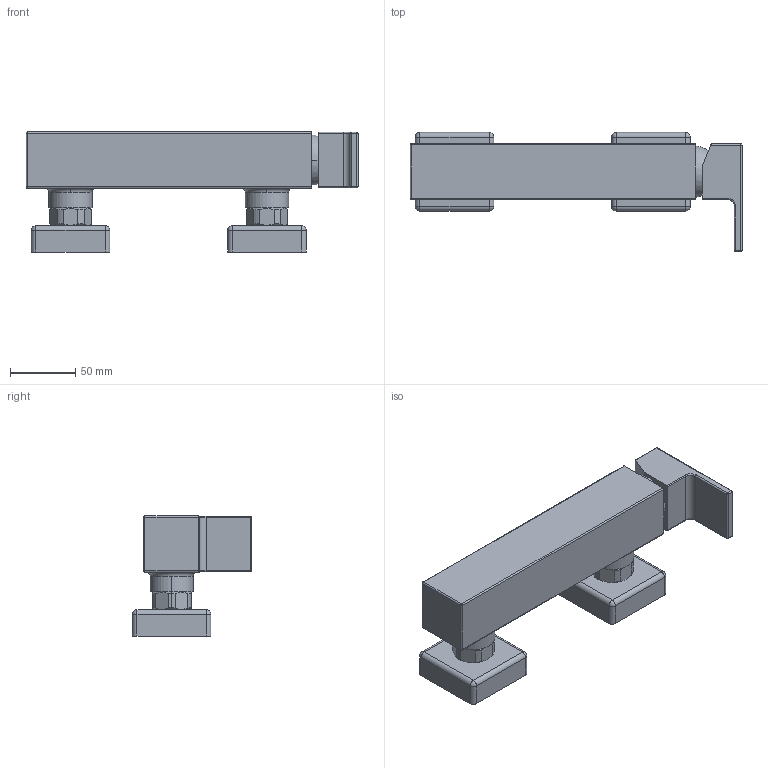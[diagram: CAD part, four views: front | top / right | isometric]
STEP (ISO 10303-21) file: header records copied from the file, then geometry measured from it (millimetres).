
FILE_DESCRIPTION(('CoCreate Modeling STEP Export'),'2;1');
FILE_NAME('84.511R.stp','2012-06-04T 9:44:05',(''),(''),'CoCreate Modeling STEP processor for AP214 (Solid Model)','CoCreate Modeling 17.0 01-Apr-2010 (C) Parametric Technology GmbH','');
FILE_SCHEMA(('AUTOMOTIVE_DESIGN { 1 0 10303 214 1 1 1 1 }'));
Length unit declared in the file: millimetre
Products named in the file (2): gruppo
Assembly tree (1 placements, depth 2):
  gruppo
    gruppo
Bounding box: 253.5 x 91 x 91.7 mm (x, y, z)
Volume: 659987.4 mm3; surface area: 79398.6 mm2
Topology: 1 solids, 2 shells, 139 faces, 336 edges, 190 vertices
Faces by surface type: cylinder 62, plane 43, sphere 18, torus 16
Entity records: 6554 total; most frequent: CARTESIAN_POINT 3562, ORIENTED_EDGE 636, DIRECTION 591, EDGE_CURVE 318, AXIS2_PLACEMENT_3D 230, VERTEX_POINT 190, EDGE_LOOP 148, FACE_OUTER_BOUND 139
